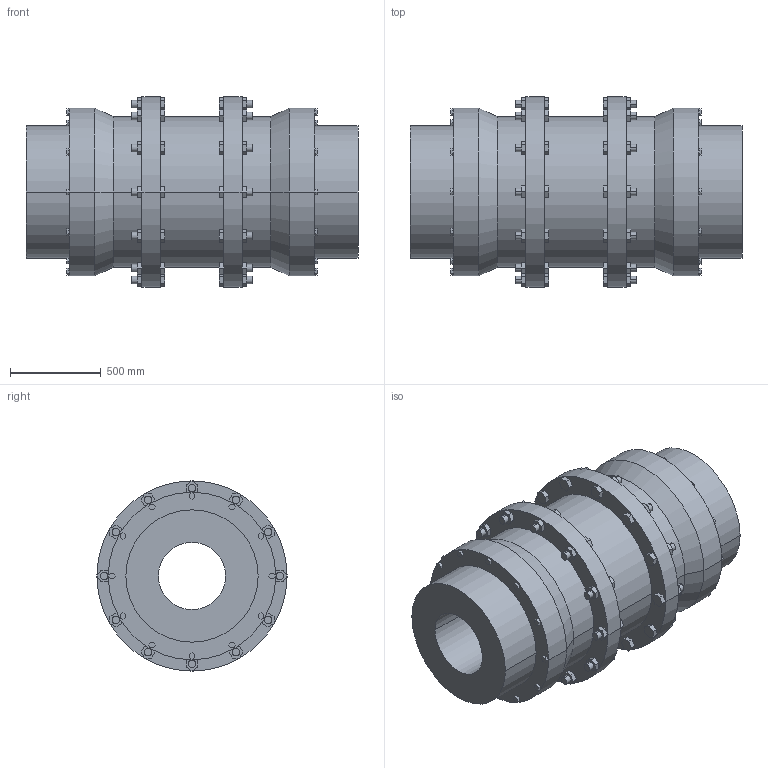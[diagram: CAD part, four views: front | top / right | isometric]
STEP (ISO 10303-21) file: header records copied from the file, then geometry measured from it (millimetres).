
FILE_DESCRIPTION((''),'2;1');
FILE_NAME('A19030400-0_ASM','2018-10-17T',('AB_Roschiwal'),('RENK AG'),'PRO/ENGINEER BY PARAMETRIC TECHNOLOGY CORPORATION, 2015440','PRO/ENGINEER BY PARAMETRIC TECHNOLOGY CORPORATION, 2015440','');
FILE_SCHEMA(('CONFIG_CONTROL_DESIGN'));
Length unit declared in the file: millimetre
Products named in the file (3): SBLK450_GEHAEUSE; SBLK450_NABE; A19030400-0_ASM
Assembly tree (3 placements, depth 2):
  A19030400-0_ASM
    SBLK450_GEHAEUSE
    SBLK450_NABE  x2
Bounding box: 1832 x 1050 x 1050 mm (x, y, z)
Volume: 564600954.5 mm3; surface area: 13924869.1 mm2
Topology: 3 solids, 3 shells, 632 faces, 1552 edges, 1032 vertices
Faces by surface type: plane 544, cylinder 84, cone 4
Entity records: 18164 total; most frequent: CARTESIAN_POINT 3170, ORIENTED_EDGE 3056, DIRECTION 2932, EDGE_CURVE 1528, VECTOR 1376, LINE 1376, VERTEX_POINT 1016, AXIS2_PLACEMENT_3D 778
